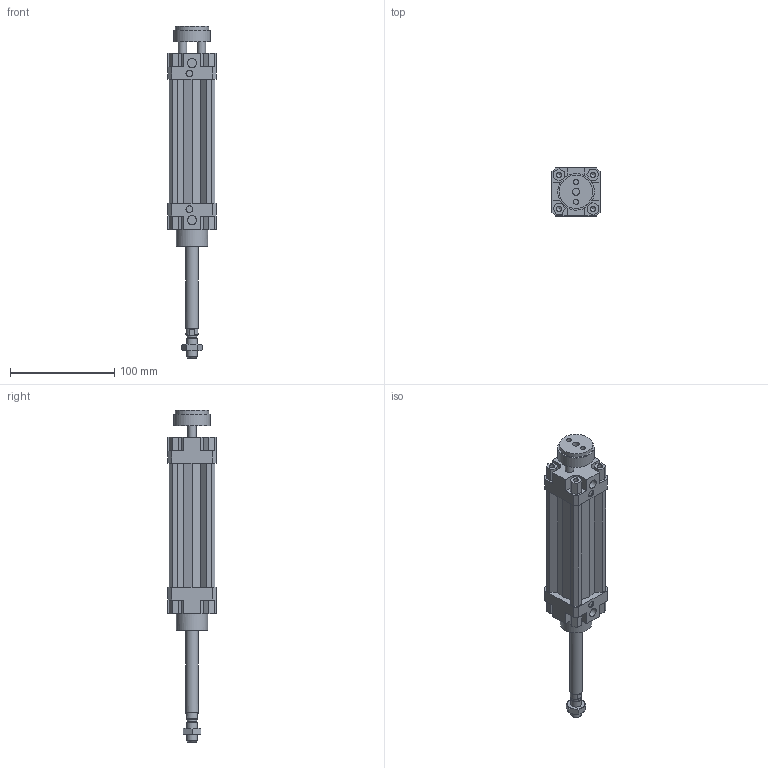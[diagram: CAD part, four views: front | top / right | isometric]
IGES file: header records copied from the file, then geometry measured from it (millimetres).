
Global section: file name: 132#_032_0075_02; native system: Autodesk Inventor 2014; preprocessor: unknown; author: A. Manieri; date: 20161006.154635; units: millimetre
Bounding box: 46 x 46 x 318 mm (x, y, z)
Volume: 247402.9 mm3; surface area: 82172.1 mm2
Topology: 3 solids, 3 shells, 227 faces, 605 edges, 405 vertices
Faces by surface type: bspline 227
